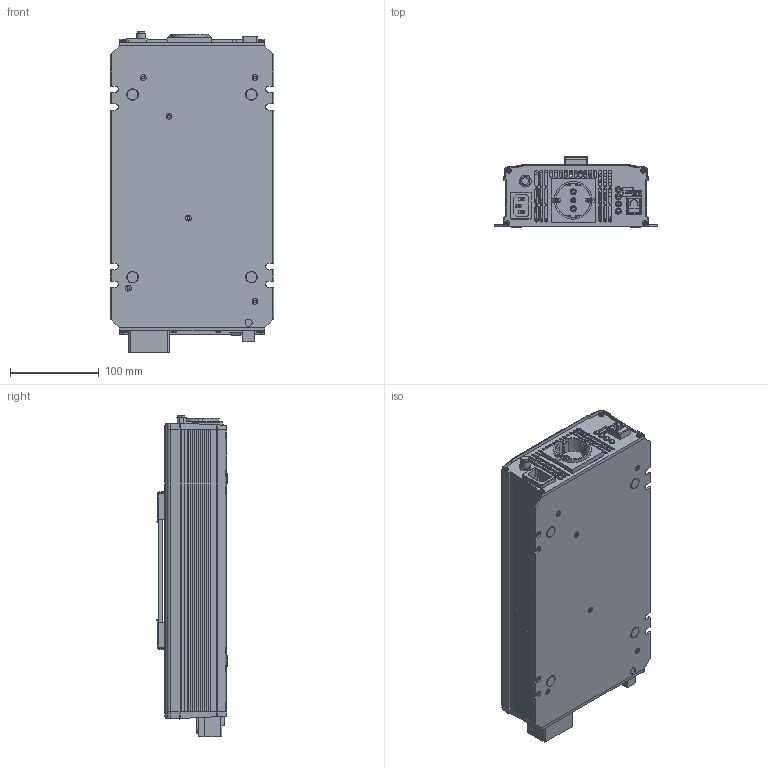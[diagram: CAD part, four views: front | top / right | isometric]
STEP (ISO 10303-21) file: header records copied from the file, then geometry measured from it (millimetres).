
FILE_DESCRIPTION(('Creo Elements/Direct Modeling STEP Export'),'2;1');
FILE_NAME('NTU-1200EU.stp','2021-07-01T11:27:18',(''),(''),'PTC Creo Elements/Direct Modeling STEP processor for AP214 (Solid Model)','PTC Creo Elements/Direct Modeling 19.0A 04-Oct-2014 (C) Parametric Technology GmbH','');
FILE_SCHEMA(('AUTOMOTIVE_DESIGN { 1 0 10303 214 1 1 1 1 }'));
Length unit declared in the file: millimetre
Products named in the file (127): 19-30286-1312__w__.1.1.1.1; 19-30286-1312__w__.1.1.1; 19-30286-1312__w__.1; 19-30286-1312__w__.1.1; 螺丝1; 19-30286-1312__w__.1.2; 19-30286-1312__w__.1.2.1; 19-30286-1312__w__.1.2.1.1; 19-30286-1312__w__.1.2.1.1.1; 螺丝1.1; 螺丝; 1xx3NTU-1200-I; PCBB; PCBA; PCBC; PCB; PCB-D; 9727R_PCB_ASM_ASM_ASM_16_ASM_1_.ASM; STANDARD_ASM_ASM_ASM_16_ASM_1_A.ASM; 拨码开关; E_1_PRT_16_1_1_5.PRT; E_PRT_16_1_1_5.PRT; LED_1_PRT_2_1_1_1_1_1_1_PRT_16_.PRT; P1.PRT; PHONE_JACK_1.PRT; 9727R_PCB.ASM; STANDARD.ASM; 9727R_PHII.ASM; DP1; 小卡装配; MOS15_5X10_1_1_1_1_1_1_1_1_1_2_.PRT.43; P3; MOSTO3P_1_1_PRT_16_1_1_5.PRT.41; MOSTO3P_1_1_PRT_16_1_1_5.PRT.40; BREAKER; MOSTO3P_1_1_PRT_16_1_1_5.PRT.42; 22; 33; AL_1_PRT_16_1_1_5.PRT; EE_2_PRT_16_1_1_5.PRT.22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
Assembly tree (148 placements, depth 8):
  NTU-1200
    1xx3NTU-1200UK-O
    E-08.欧插
      E-08_1.ASM
        E08B_SERIES1.PRT
        E08-4.PRT  x3
        E08_3.PRT  x2
        E08_001_SERIES_ASM.ASM
          E08_001_3.PRT
          E08_001_4.PRT
        E08-6.PRT
        E08_SERIES1.PRT
        E08-5.PRT
    装配1
      INPUT
      1GG
        YS031W-074.1
        YS031W-074
        HS-SZ901
        CU-177  x2
        HS-659
          HS3_1_ASM_5.ASM
            HS3_5.PRT
            PIN_1_5.PRT
        HS-660
        33_PRT_16_1_1_5.PRT  x2
        HS-272B
      1HH
        1HH2NTU-1200A.1
        130x65
        THERMAL_PAD-2_5.PRT
        THERMAL_PAD-1_8.PRT
        SI_PRT_16_1_1_5.PRT
        SILICONE_PAD_5.PRT
        MYLAR_PRT_16_1_1_5.PRT
        MYLAR-2_5.PRT
        1HH2NTU-120019
      CASE
        PAD
          FOOT_PAD_7_1.PRT.30
          FOOT_PAD_7_1.PRT.31
          FOOT_PAD_7_1.PRT
          FOOT_PAD_7_1.PRT.29
        固纬把手
          174
          guwei1
          guwei1.1
        CASE上盖
        CASE下盖
          M3-7L_1_PRT_16_1_1_5.PRT.1
          M3-7L_1_PRT_16_1_1_5.PRT
          M3-7L_1_PRT_16_1_1_5.PRT.6
          M3-7L_1_PRT_16_1_1_5.PRT.5
          77_PRT_16_1_1_5.PRT
          M3-7L_1_PRT_16_1_1_5.PRT.7
          M3-7L_1_PRT_16_1_1_5.PRT.9
          CASE
      装配
        T_7.PRT
        A1_1_ASM_ASM_ASM_16_ASM_1_ASM_1.ASM
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Bounding box: 184 x 79.45 x 363.06 mm (x, y, z)
Volume: 979224.2 mm3; surface area: 896193.8 mm2
Topology: 106 solids, 109 shells, 5105 faces, 13422 edges, 8601 vertices
Faces by surface type: plane 2971, cylinder 1359, cone 373, bspline 153, torus 141, sphere 106, extrusion 2
Entity records: 155002 total; most frequent: CARTESIAN_POINT 36609, ORIENTED_EDGE 22591, DIRECTION 20809, EDGE_CURVE 11284, VECTOR 7445, LINE 7443, VERTEX_POINT 7301, AXIS2_PLACEMENT_3D 6682
